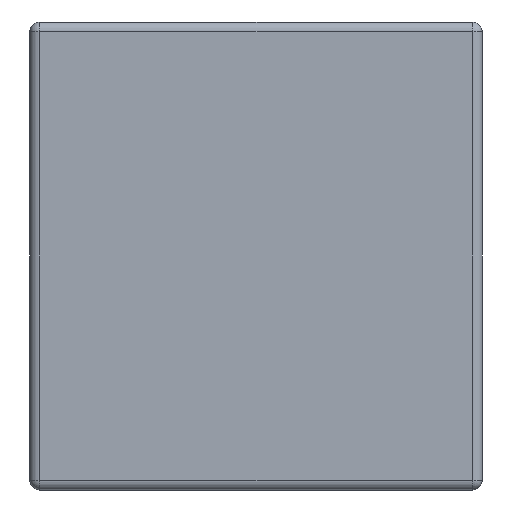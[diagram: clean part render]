
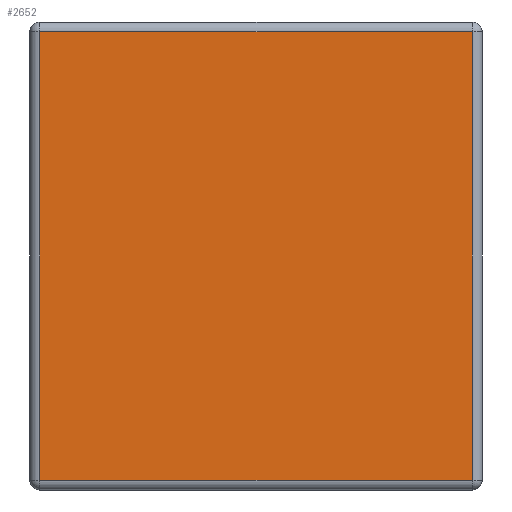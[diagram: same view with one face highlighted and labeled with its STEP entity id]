
A CAD part, left-side view. The second image highlights one B-rep face of the part: STEP entity #2652.
In plain terms, the highlighted planar face has unit normal (-1, 0, 0).
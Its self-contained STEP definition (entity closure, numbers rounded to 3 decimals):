
#139 = DIRECTION ( 'NONE',  ( 0., 0., 1. ) ) ;
#217 = ORIENTED_EDGE ( 'NONE', *, *, #1566, .T. ) ;
#397 = EDGE_CURVE ( 'NONE', #3088, #627, #718, .T. ) ;
#574 = LINE ( 'NONE', #4249, #1792 ) ;
#627 = VERTEX_POINT ( 'NONE', #3223 ) ;
#718 = LINE ( 'NONE', #900, #2387 ) ;
#893 = CARTESIAN_POINT ( 'NONE',  ( 0., 0.019, -0.019 ) ) ;
#900 = CARTESIAN_POINT ( 'NONE',  ( 0., 0.87, -0.019 ) ) ;
#1144 = ORIENTED_EDGE ( 'NONE', *, *, #397, .T. ) ;
#1193 = DIRECTION ( 'NONE',  ( -1., 0., 0. ) ) ;
#1239 = CARTESIAN_POINT ( 'NONE',  ( 0., 0., -0.881 ) ) ;
#1287 = VERTEX_POINT ( 'NONE', #1629 ) ;
#1357 = LINE ( 'NONE', #1239, #4162 ) ;
#1502 = EDGE_CURVE ( 'NONE', #1503, #3088, #3462, .T. ) ;
#1503 = VERTEX_POINT ( 'NONE', #4205 ) ;
#1566 = EDGE_CURVE ( 'NONE', #627, #1287, #574, .T. ) ;
#1572 = FACE_OUTER_BOUND ( 'NONE', #1638, .T. ) ;
#1629 = CARTESIAN_POINT ( 'NONE',  ( 0., 0.851, -0.881 ) ) ;
#1638 = EDGE_LOOP ( 'NONE', ( #4134, #1910, #1144, #217 ) ) ;
#1792 = VECTOR ( 'NONE', #2485, 1000. ) ;
#1827 = EDGE_CURVE ( 'NONE', #1287, #1503, #1357, .T. ) ;
#1910 = ORIENTED_EDGE ( 'NONE', *, *, #1502, .T. ) ;
#1948 = DIRECTION ( 'NONE',  ( 0., -1., 0. ) ) ;
#2142 = DIRECTION ( 'NONE',  ( 0., 0., 1. ) ) ;
#2248 = AXIS2_PLACEMENT_3D ( 'NONE', #3333, #1193, #139 ) ;
#2387 = VECTOR ( 'NONE', #3054, 1000. ) ;
#2485 = DIRECTION ( 'NONE',  ( 0., 0., -1. ) ) ;
#2652 = ADVANCED_FACE ( 'NONE', ( #1572 ), #4397, .T. ) ;
#3054 = DIRECTION ( 'NONE',  ( 0., 1., 0. ) ) ;
#3088 = VERTEX_POINT ( 'NONE', #893 ) ;
#3223 = CARTESIAN_POINT ( 'NONE',  ( 0., 0.851, -0.019 ) ) ;
#3333 = CARTESIAN_POINT ( 'NONE',  ( 0., 0., 0. ) ) ;
#3436 = CARTESIAN_POINT ( 'NONE',  ( 0., 0.019, 0. ) ) ;
#3462 = LINE ( 'NONE', #3436, #4266 ) ;
#4134 = ORIENTED_EDGE ( 'NONE', *, *, #1827, .T. ) ;
#4162 = VECTOR ( 'NONE', #1948, 1000. ) ;
#4205 = CARTESIAN_POINT ( 'NONE',  ( 0., 0.019, -0.881 ) ) ;
#4249 = CARTESIAN_POINT ( 'NONE',  ( 0., 0.851, -0.9 ) ) ;
#4266 = VECTOR ( 'NONE', #2142, 1000. ) ;
#4397 = PLANE ( 'NONE',  #2248 ) ;
